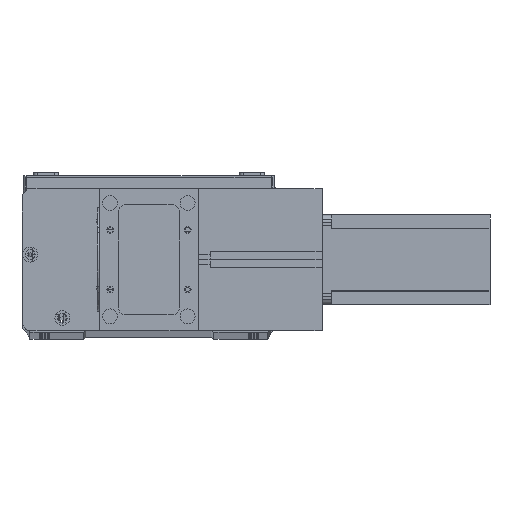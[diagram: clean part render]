
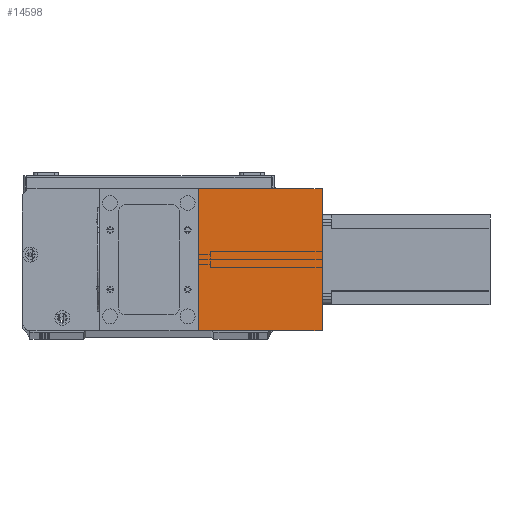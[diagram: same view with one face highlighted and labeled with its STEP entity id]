
A CAD part, top view. The second image highlights one B-rep face of the part: STEP entity #14598.
In plain terms, the highlighted planar face has unit normal (0, 0, 1) as drawn and (1, 0, 0) by its records, which use the part's own axes.
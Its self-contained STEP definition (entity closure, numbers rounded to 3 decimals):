
#211 = LINE ( 'NONE', #14303, #30394 ) ;
#908 = DIRECTION ( 'NONE',  ( 0., 1., 0. ) ) ;
#1214 = EDGE_CURVE ( 'NONE', #13320, #16118, #6364, .T. ) ;
#1286 = CARTESIAN_POINT ( 'NONE',  ( 82., 0., 0. ) ) ;
#1646 = FACE_OUTER_BOUND ( 'NONE', #23048, .T. ) ;
#1871 = LINE ( 'NONE', #12946, #19597 ) ;
#2294 = CARTESIAN_POINT ( 'NONE',  ( 82., 0., 83. ) ) ;
#3488 = CARTESIAN_POINT ( 'NONE',  ( 82., 95., 83. ) ) ;
#4388 = CARTESIAN_POINT ( 'NONE',  ( 82., 0., 83. ) ) ;
#6364 = LINE ( 'NONE', #13001, #23957 ) ;
#7293 = ORIENTED_EDGE ( 'NONE', *, *, #24304, .F. ) ;
#9050 = ORIENTED_EDGE ( 'NONE', *, *, #1214, .T. ) ;
#9191 = VERTEX_POINT ( 'NONE', #3488 ) ;
#11587 = DIRECTION ( 'NONE',  ( -1., 0., 0. ) ) ;
#12946 = CARTESIAN_POINT ( 'NONE',  ( 82., 0., 83. ) ) ;
#13001 = CARTESIAN_POINT ( 'NONE',  ( 82., 0., 0. ) ) ;
#13034 = VECTOR ( 'NONE', #30868, 1000. ) ;
#13126 = DIRECTION ( 'NONE',  ( 0., 1., 0. ) ) ;
#13320 = VERTEX_POINT ( 'NONE', #1286 ) ;
#13683 = CARTESIAN_POINT ( 'NONE',  ( 82., 95., 0. ) ) ;
#14139 = EDGE_CURVE ( 'NONE', #16746, #13320, #19401, .T. ) ;
#14303 = CARTESIAN_POINT ( 'NONE',  ( 82., 95., 83. ) ) ;
#14598 = ADVANCED_FACE ( 'NONE', ( #1646 ), #25801, .F. ) ;
#16118 = VERTEX_POINT ( 'NONE', #13683 ) ;
#16746 = VERTEX_POINT ( 'NONE', #4388 ) ;
#19066 = ORIENTED_EDGE ( 'NONE', *, *, #14139, .T. ) ;
#19401 = LINE ( 'NONE', #2294, #13034 ) ;
#19597 = VECTOR ( 'NONE', #908, 1000. ) ;
#21097 = CARTESIAN_POINT ( 'NONE',  ( 82., 0., 83. ) ) ;
#23048 = EDGE_LOOP ( 'NONE', ( #9050, #27764, #7293, #19066 ) ) ;
#23171 = AXIS2_PLACEMENT_3D ( 'NONE', #21097, #11587, #28134 ) ;
#23891 = DIRECTION ( 'NONE',  ( 0., 0., -1. ) ) ;
#23957 = VECTOR ( 'NONE', #13126, 1000. ) ;
#24304 = EDGE_CURVE ( 'NONE', #16746, #9191, #1871, .T. ) ;
#25801 = PLANE ( 'NONE',  #23171 ) ;
#27395 = EDGE_CURVE ( 'NONE', #9191, #16118, #211, .T. ) ;
#27764 = ORIENTED_EDGE ( 'NONE', *, *, #27395, .F. ) ;
#28134 = DIRECTION ( 'NONE',  ( 0., 0., 1. ) ) ;
#30394 = VECTOR ( 'NONE', #23891, 1000. ) ;
#30868 = DIRECTION ( 'NONE',  ( 0., 0., -1. ) ) ;
